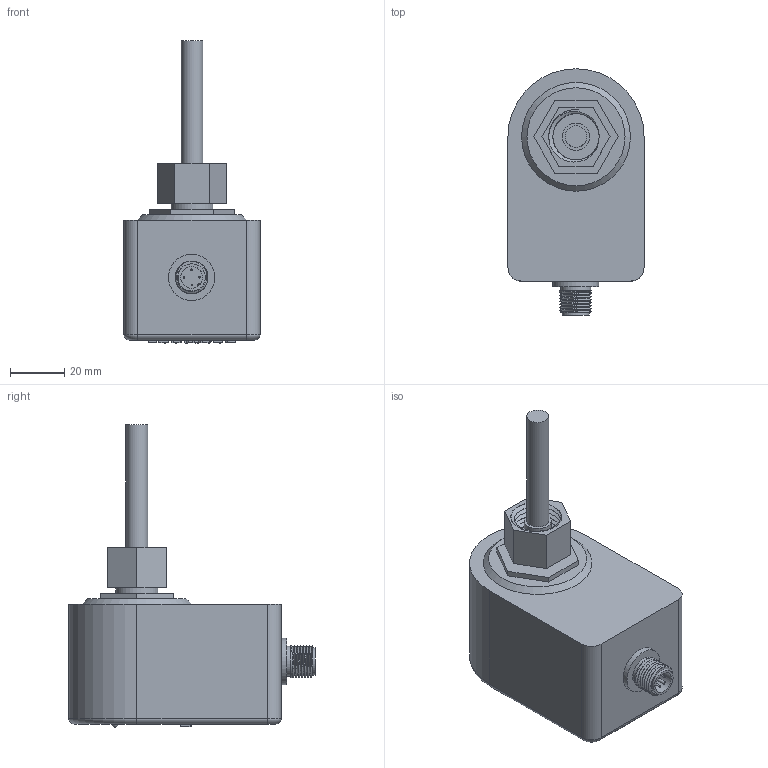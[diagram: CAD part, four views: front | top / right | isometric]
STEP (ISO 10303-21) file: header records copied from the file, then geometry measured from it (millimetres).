
FILE_DESCRIPTION(/* description */ (''),/* implementation_level */ '2;1');
FILE_NAME(/* name */ 'PLSX-18MN-AN6D-SC.stp',/* time_stamp */ '2022-06-15T14:06:25+08:00',/* author */ (''),/* organization */ (''),/* preprocessor_version */ 'ST-DEVELOPER v16',/* originating_system */ 'SIEMENS PLM Software NX 10.0',/* authorisation */ '');
FILE_SCHEMA (('CONFIG_CONTROL_DESIGN'));
Length unit declared in the file: millimetre
Products named in the file (1): PLSX-18MN-SC
Bounding box: 50 x 90.5 x 111.25 mm (x, y, z)
Volume: 169799.6 mm3; surface area: 23583.4 mm2
Topology: 3 solids, 3 shells, 168 faces, 408 edges, 271 vertices
Faces by surface type: plane 112, cylinder 24, extrusion 16, sphere 6, bspline 5, torus 3, cone 2
Full cylindrical faces by diameter (mm): 0.6 x4, 3 x1, 8 x2, 10 x2, 11 x1, 15.414 x1, 17 x1
Entity records: 8064 total; most frequent: CARTESIAN_POINT 4485, ORIENTED_EDGE 758, DIRECTION 569, EDGE_CURVE 379, VERTEX_POINT 262, EDGE_LOOP 213, AXIS2_PLACEMENT_3D 207, B_SPLINE_CURVE_WITH_KNOTS 197
